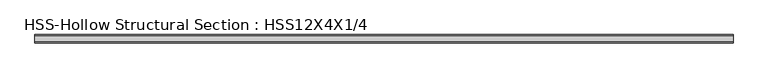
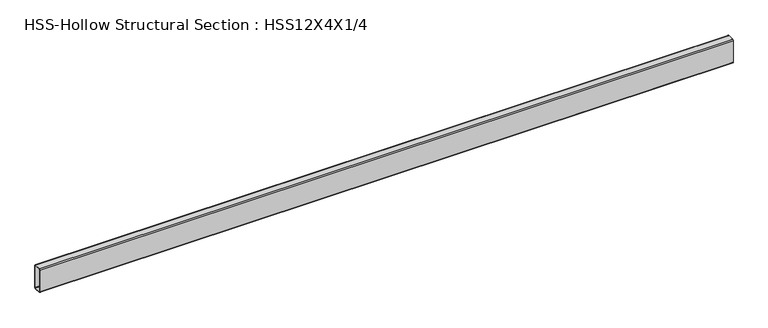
"""IFC4 building model written with IfcOpenShell, lengths in millimetres: beam geometry, HSS-Hollow Structural Section : HSS12X4X1/4."""

from ifc_helpers import new_model, si_unit, point, frame, frame_2d, origin, place, context, project, spatial, polyline, circle_curve, trimmed, segment, composite_curve, outline, extrude, source, transform, mapped, element, save


def hss_hollow_structural_section_hss12x4x1_4_a2eafc31(model_context):
    return source(origin(), model_context, "Body", "SweptSolid", [
        extrude(outline(composite_curve([segment(polyline([(50.8, 140.5636), (50.8, -140.5636)]), True, "CONTINUOUS"), segment(trimmed(circle_curve(frame_2d((38.9636, -140.5636)), 11.8364), [point((50.8, -140.5636))], [point((38.9636, -152.4))], False, "CARTESIAN"), True, "CONTINUOUS"), segment(polyline([(38.9636, -152.4), (-38.9636, -152.4)]), True, "CONTINUOUS"), segment(trimmed(circle_curve(frame_2d((-38.9636, -140.5636)), 11.8364), [point((-38.9636, -152.4))], [point((-50.8, -140.5636))], False, "CARTESIAN"), True, "CONTINUOUS"), segment(polyline([(-50.8, -140.5636), (-50.8, 140.5636)]), True, "CONTINUOUS"), segment(trimmed(circle_curve(frame_2d((-38.9636, 140.5636)), 11.8364), [point((-50.8, 140.5636))], [point((-38.9636, 152.4))], False, "CARTESIAN"), True, "CONTINUOUS"), segment(polyline([(-38.9636, 152.4), (38.9636, 152.4)]), True, "CONTINUOUS"), segment(trimmed(circle_curve(frame_2d((38.9636, 140.5636)), 11.8364), [point((38.9636, 152.4))], [point((50.8, 140.5636))], False, "CARTESIAN"), True, "CONTINUOUS")], self_intersect=False), holes=[composite_curve([segment(trimmed(circle_curve(frame_2d((-38.9636, 140.5636)), 5.9182), [point((-38.9636, 146.4818))], [point((-44.8818, 140.5636))], True, "CARTESIAN"), True, "CONTINUOUS"), segment(polyline([(-44.8818, 140.5636), (-44.8818, -140.5636)]), True, "CONTINUOUS"), segment(trimmed(circle_curve(frame_2d((-38.9636, -140.5636)), 5.9182), [point((-44.8818, -140.5636))], [point((-38.9636, -146.4818))], True, "CARTESIAN"), True, "CONTINUOUS"), segment(polyline([(-38.9636, -146.4818), (38.9636, -146.4818)]), True, "CONTINUOUS"), segment(trimmed(circle_curve(frame_2d((38.9636, -140.5636)), 5.9182), [point((38.9636, -146.4818))], [point((44.8818, -140.5636))], True, "CARTESIAN"), True, "CONTINUOUS"), segment(polyline([(44.8818, -140.5636), (44.8818, 140.5636)]), True, "CONTINUOUS"), segment(trimmed(circle_curve(frame_2d((38.9636, 140.5636)), 5.9182), [point((44.8818, 140.5636))], [point((38.9636, 146.4818))], True, "CARTESIAN"), True, "CONTINUOUS"), segment(polyline([(38.9636, 146.4818), (-38.9636, 146.4818)]), True, "CONTINUOUS")], self_intersect=False)]), frame((-4457.4821665, 0.0, 0.0), z_axis=(1.0, 0.0, 0.0), x_axis=(0.0, 1.0, 0.0)), (0.0, 0.0, 1.0), 8502.65),
    ])


if __name__ == "__main__":
    model = new_model("IFC4")
    model_context = context("Model", 3, world=origin())
    ifc_project = project(units=[si_unit("LENGTHUNIT", "METRE", prefix="MILLI")], contexts=[model_context])
    site = spatial("IfcSite", under=ifc_project)
    building = spatial("IfcBuilding", under=site)
    placement = place(None, origin())
    hss_hollow_structural_section_hss12x4x1_4_shape = hss_hollow_structural_section_hss12x4x1_4_a2eafc31(model_context)
    element("IfcBeam", 1, ObjectType="HSS-Hollow Structural Section : HSS12X4X1/4", at=placement, inside=building, context=model_context, shape_type="MappedRepresentation", body=[
        mapped(hss_hollow_structural_section_hss12x4x1_4_shape, transform((0.0, 0.0, 0.0), x_axis=(1.0, 0.0, 0.0), y_axis=(0.0, 1.0, 0.0), z_axis=(0.0, 0.0, 1.0))),
    ])
    save(model, "model.ifc")
